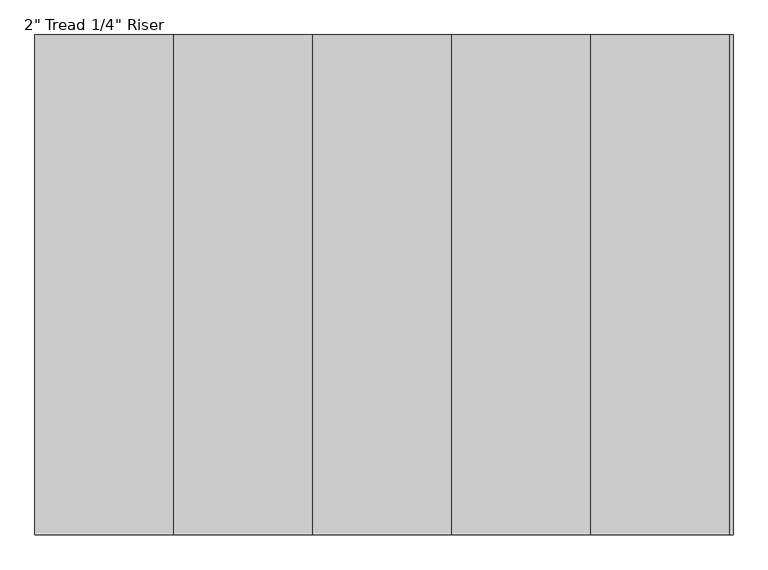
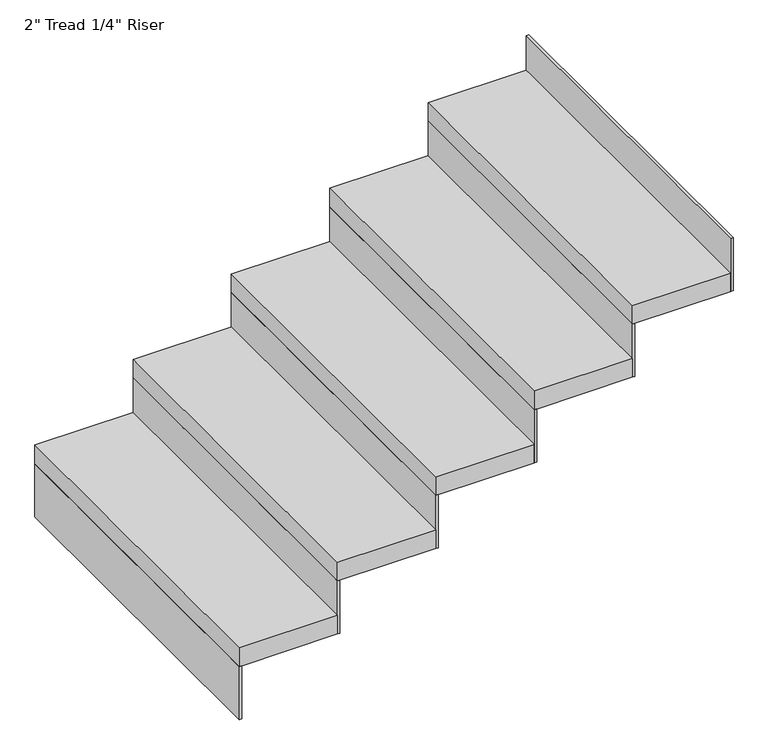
"""IFC4 building model written with IfcOpenShell, lengths in millimetres: stair flight geometry."""

from ifc_helpers import new_model, si_unit, frame, origin, place, context, project, spatial, polyline, outline, extrude, source, transform, mapped, element, save


def stair_flight_bb475c89(model_context):
    return source(origin(), model_context, "Body", "SweptSolid", [
        extrude(outline(polyline([(2425.7036861, 36015.7361774), (2419.3536861, 36015.7361774), (2419.3536861, 36930.1361774), (2425.7036861, 36930.1361774), (2425.7036861, 36015.7361774)])), frame((0.0, 0.0, 2126.3428571), z_axis=(0.0, 0.0, 1.0), x_axis=(1.0, 0.0, 0.0)), (0.0, 0.0, 1.0), 145.1428571),
        extrude(outline(polyline([(2673.3536861, 36930.1361774), (2673.3536861, 36015.7361774), (2419.3536861, 36015.7361774), (2419.3536861, 36930.1361774), (2673.3536861, 36930.1361774)])), frame((0.0, 0.0, 2271.4857143), z_axis=(0.0, 0.0, 1.0), x_axis=(1.0, 0.0, 0.0)), (0.0, 0.0, 1.0), 50.8),
        extrude(outline(polyline([(2679.7036861, 36015.7361774), (2673.3536861, 36015.7361774), (2673.3536861, 36930.1361774), (2679.7036861, 36930.1361774), (2679.7036861, 36015.7361774)])), frame((0.0, 0.0, 2271.4857143), z_axis=(0.0, 0.0, 1.0), x_axis=(1.0, 0.0, 0.0)), (0.0, 0.0, 1.0), 145.1428571),
        extrude(outline(polyline([(2927.3536861, 36930.1361774), (2927.3536861, 36015.7361774), (2673.3536861, 36015.7361774), (2673.3536861, 36930.1361774), (2927.3536861, 36930.1361774)])), frame((0.0, 0.0, 2416.6285714), z_axis=(0.0, 0.0, 1.0), x_axis=(1.0, 0.0, 0.0)), (0.0, 0.0, 1.0), 50.8),
        extrude(outline(polyline([(2933.7036861, 36015.7361774), (2927.3536861, 36015.7361774), (2927.3536861, 36930.1361774), (2933.7036861, 36930.1361774), (2933.7036861, 36015.7361774)])), frame((0.0, 0.0, 2416.6285714), z_axis=(0.0, 0.0, 1.0), x_axis=(1.0, 0.0, 0.0)), (0.0, 0.0, 1.0), 145.1428571),
        extrude(outline(polyline([(3181.3536861, 36930.1361774), (3181.3536861, 36015.7361774), (2927.3536861, 36015.7361774), (2927.3536861, 36930.1361774), (3181.3536861, 36930.1361774)])), frame((0.0, 0.0, 2561.7714286), z_axis=(0.0, 0.0, 1.0), x_axis=(1.0, 0.0, 0.0)), (0.0, 0.0, 1.0), 50.8),
        extrude(outline(polyline([(3187.7036861, 36015.7361774), (3181.3536861, 36015.7361774), (3181.3536861, 36930.1361774), (3187.7036861, 36930.1361774), (3187.7036861, 36015.7361774)])), frame((0.0, 0.0, 2561.7714286), z_axis=(0.0, 0.0, 1.0), x_axis=(1.0, 0.0, 0.0)), (0.0, 0.0, 1.0), 145.1428571),
        extrude(outline(polyline([(3435.3536861, 36930.1361774), (3435.3536861, 36015.7361774), (3181.3536861, 36015.7361774), (3181.3536861, 36930.1361774), (3435.3536861, 36930.1361774)])), frame((0.0, 0.0, 2706.9142857), z_axis=(0.0, 0.0, 1.0), x_axis=(1.0, 0.0, 0.0)), (0.0, 0.0, 1.0), 50.8),
        extrude(outline(polyline([(3441.7036861, 36015.7361774), (3435.3536861, 36015.7361774), (3435.3536861, 36930.1361774), (3441.7036861, 36930.1361774), (3441.7036861, 36015.7361774)])), frame((0.0, 0.0, 2706.9142857), z_axis=(0.0, 0.0, 1.0), x_axis=(1.0, 0.0, 0.0)), (0.0, 0.0, 1.0), 145.1428571),
        extrude(outline(polyline([(3695.7036861, 36015.7361774), (3689.3536861, 36015.7361774), (3689.3536861, 36930.1361774), (3695.7036861, 36930.1361774), (3695.7036861, 36015.7361774)])), frame((0.0, 0.0, 2852.0571429), z_axis=(0.0, 0.0, 1.0), x_axis=(1.0, 0.0, 0.0)), (0.0, 0.0, 1.0), 145.1428571),
        extrude(outline(polyline([(3689.3536861, 36930.1361774), (3689.3536861, 36015.7361774), (3435.3536861, 36015.7361774), (3435.3536861, 36930.1361774), (3689.3536861, 36930.1361774)])), frame((0.0, 0.0, 2852.0571429), z_axis=(0.0, 0.0, 1.0), x_axis=(1.0, 0.0, 0.0)), (0.0, 0.0, 1.0), 50.8),
    ])


if __name__ == "__main__":
    model = new_model("IFC4")
    model_context = context("Model", 3, world=origin())
    ifc_project = project(units=[si_unit("LENGTHUNIT", "METRE", prefix="MILLI")], contexts=[model_context])
    site = spatial("IfcSite", under=ifc_project)
    building = spatial("IfcBuilding", under=site)
    placement = place(None, origin())
    stair_flight_shape = stair_flight_bb475c89(model_context)
    element("IfcStairFlight", 1, ObjectType="2\" Tread 1/4\" Riser", at=placement, inside=building, context=model_context, shape_type="MappedRepresentation", body=[
        mapped(stair_flight_shape, transform((0.0, 0.0, 0.0), x_axis=(1.0, 0.0, 0.0), y_axis=(0.0, 1.0, 0.0), z_axis=(0.0, 0.0, 1.0))),
    ])
    save(model, "model.ifc")
